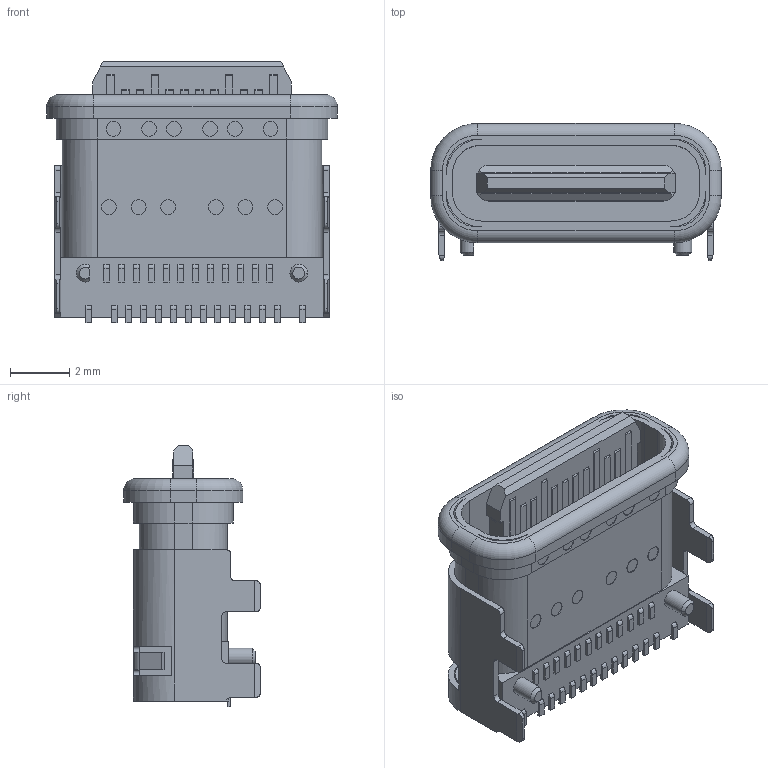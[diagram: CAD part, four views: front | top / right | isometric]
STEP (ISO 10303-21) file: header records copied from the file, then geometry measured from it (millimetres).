
FILE_DESCRIPTION((''),'2;1');
FILE_NAME('TYPE-C-CHENGBAN','2023-06-24T',('WYH'),(''),'PRO/ENGINEER BY PARAMETRIC TECHNOLOGY CORPORATION, 2013040','PRO/ENGINEER BY PARAMETRIC TECHNOLOGY CORPORATION, 2013040','');
FILE_SCHEMA(('CONFIG_CONTROL_DESIGN'));
Length unit declared in the file: millimetre
Products named in the file (1): TYPE-C-CHENGBAN
Bounding box: 9.8 x 4.61 x 8.83 mm (x, y, z)
Volume: 166.2 mm3; surface area: 485.1 mm2
Topology: 1 solids, 3 shells, 816 faces, 2182 edges, 1427 vertices
Faces by surface type: plane 655, cylinder 154, torus 4, cone 3
Entity records: 25197 total; most frequent: CARTESIAN_POINT 4547, ORIENTED_EDGE 4364, DIRECTION 4090, EDGE_CURVE 2182, VECTOR 1840, LINE 1840, VERTEX_POINT 1427, AXIS2_PLACEMENT_3D 1125
